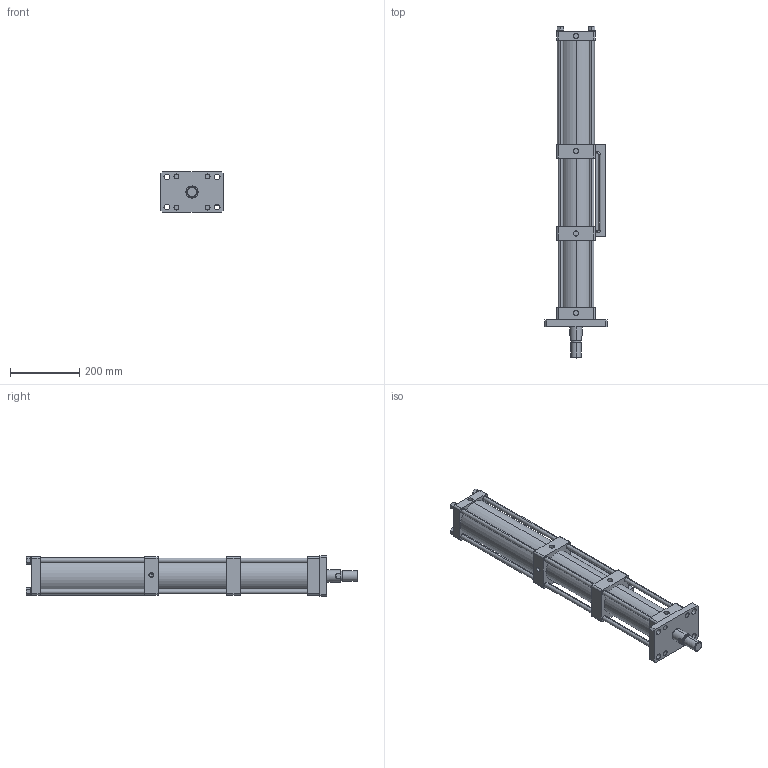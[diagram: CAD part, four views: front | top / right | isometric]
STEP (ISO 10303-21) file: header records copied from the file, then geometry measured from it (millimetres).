
FILE_DESCRIPTION (( 'STEP AP203' ), '1' );
FILE_NAME ('MPTF-80-150-20-5T.STEP', '2016-03-29T10:07:07', ( 'WIN' ), ( '' ), 'SwSTEP 2.0', 'SolidWorks 2014', '' );
FILE_SCHEMA (( 'CONFIG_CONTROL_DESIGN' ));
Length unit declared in the file: millimetre
Products named in the file (1): MPTF-80-150-20-5T
Bounding box: 180 x 960 x 118 mm (x, y, z)
Volume: 3816702 mm3; surface area: 814816.8 mm2
Topology: 5 solids, 5 shells, 266 faces, 632 edges, 413 vertices
Faces by surface type: cylinder 136, plane 120, cone 6, torus 4
Entity records: 7973 total; most frequent: DIRECTION 1448, CARTESIAN_POINT 1382, ORIENTED_EDGE 1260, EDGE_CURVE 630, AXIS2_PLACEMENT_3D 555, VERTEX_POINT 413, EDGE_LOOP 349, LINE 338
